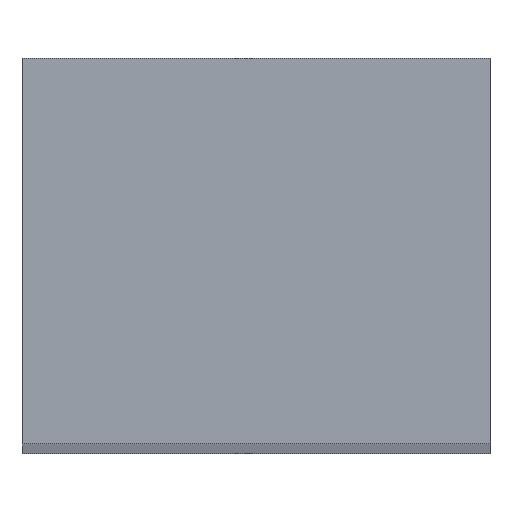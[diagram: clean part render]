
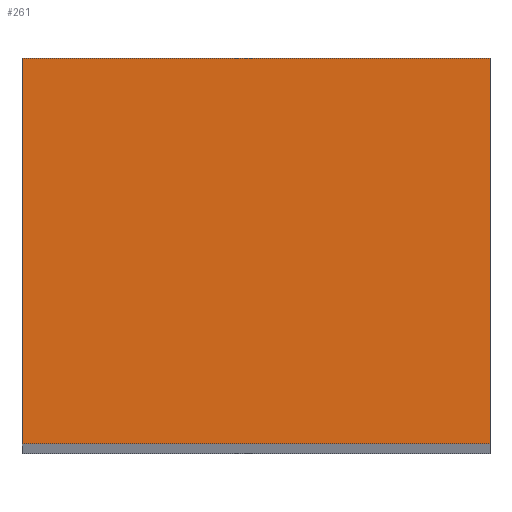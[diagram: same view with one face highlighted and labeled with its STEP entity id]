
A CAD part, top view. The second image highlights one B-rep face of the part: STEP entity #261.
In plain terms, the highlighted planar face has unit normal (0, 0, 1).
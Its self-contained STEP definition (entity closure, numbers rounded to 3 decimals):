
#9 = DIRECTION ( 'NONE',  ( 0., -1., 0. ) ) ;
#19 = VERTEX_POINT ( 'NONE', #295 ) ;
#20 = VECTOR ( 'NONE', #363, 1000. ) ;
#40 = CARTESIAN_POINT ( 'NONE',  ( -8.5, 7., 200. ) ) ;
#42 = DIRECTION ( 'NONE',  ( 0., 1., 0. ) ) ;
#46 = CARTESIAN_POINT ( 'NONE',  ( -8.5, 7., 200. ) ) ;
#53 = DIRECTION ( 'NONE',  ( 0., 0., 1. ) ) ;
#57 = VECTOR ( 'NONE', #42, 1000. ) ;
#63 = CARTESIAN_POINT ( 'NONE',  ( 8.5, 7., 200. ) ) ;
#67 = EDGE_CURVE ( 'NONE', #350, #306, #109, .T. ) ;
#94 = LINE ( 'NONE', #234, #20 ) ;
#109 = LINE ( 'NONE', #409, #57 ) ;
#120 = PLANE ( 'NONE',  #137 ) ;
#137 = AXIS2_PLACEMENT_3D ( 'NONE', #322, #53, #193 ) ;
#151 = VECTOR ( 'NONE', #434, 1000. ) ;
#160 = ORIENTED_EDGE ( 'NONE', *, *, #328, .T. ) ;
#184 = EDGE_CURVE ( 'NONE', #420, #19, #374, .T. ) ;
#193 = DIRECTION ( 'NONE',  ( 1., 0., 0. ) ) ;
#234 = CARTESIAN_POINT ( 'NONE',  ( -8.5, -7., 200. ) ) ;
#261 = ADVANCED_FACE ( 'NONE', ( #419 ), #120, .T. ) ;
#289 = ORIENTED_EDGE ( 'NONE', *, *, #184, .T. ) ;
#295 = CARTESIAN_POINT ( 'NONE',  ( -8.5, -7., 200. ) ) ;
#297 = EDGE_CURVE ( 'NONE', #19, #350, #94, .T. ) ;
#299 = LINE ( 'NONE', #396, #151 ) ;
#306 = VERTEX_POINT ( 'NONE', #63 ) ;
#315 = ORIENTED_EDGE ( 'NONE', *, *, #67, .T. ) ;
#322 = CARTESIAN_POINT ( 'NONE',  ( 0., 0., 200. ) ) ;
#328 = EDGE_CURVE ( 'NONE', #306, #420, #299, .T. ) ;
#341 = EDGE_LOOP ( 'NONE', ( #315, #160, #289, #388 ) ) ;
#350 = VERTEX_POINT ( 'NONE', #367 ) ;
#363 = DIRECTION ( 'NONE',  ( 1., 0., 0. ) ) ;
#367 = CARTESIAN_POINT ( 'NONE',  ( 8.5, -7., 200. ) ) ;
#374 = LINE ( 'NONE', #46, #427 ) ;
#388 = ORIENTED_EDGE ( 'NONE', *, *, #297, .T. ) ;
#396 = CARTESIAN_POINT ( 'NONE',  ( -8.5, 7., 200. ) ) ;
#409 = CARTESIAN_POINT ( 'NONE',  ( 8.5, 7., 200. ) ) ;
#419 = FACE_OUTER_BOUND ( 'NONE', #341, .T. ) ;
#420 = VERTEX_POINT ( 'NONE', #40 ) ;
#427 = VECTOR ( 'NONE', #9, 1000. ) ;
#434 = DIRECTION ( 'NONE',  ( -1., 0., 0. ) ) ;
